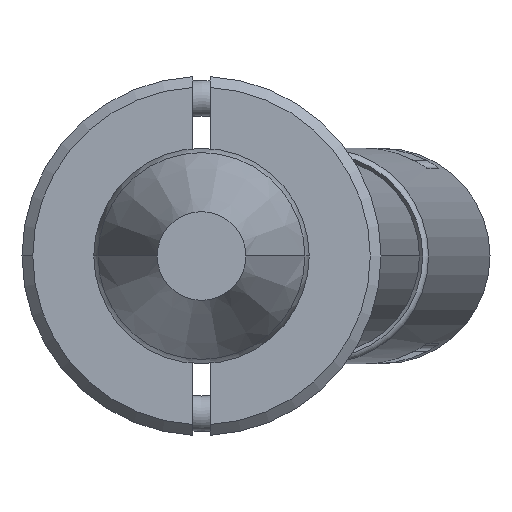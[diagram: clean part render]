
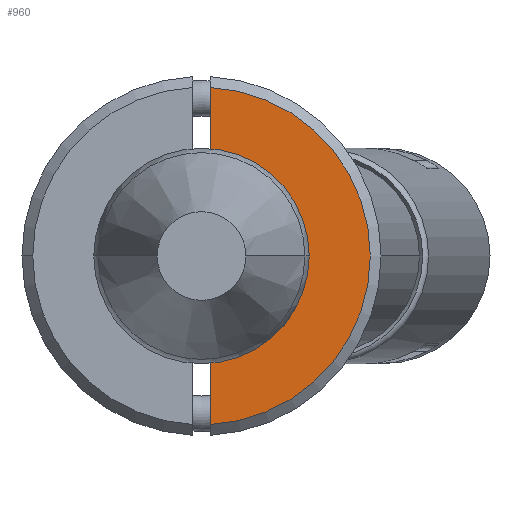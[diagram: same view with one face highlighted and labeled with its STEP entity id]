
A CAD part, front view. The second image highlights one B-rep face of the part: STEP entity #960.
In plain terms, the highlighted planar face has unit normal (0, -1, 0).
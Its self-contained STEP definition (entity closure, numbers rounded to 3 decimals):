
#6 = DIRECTION ( 'NONE',  ( 0., 0., -1. ) ) ;
#55 = ORIENTED_EDGE ( 'NONE', *, *, #1583, .F. ) ;
#190 = VERTEX_POINT ( 'NONE', #1288 ) ;
#221 = LINE ( 'NONE', #2605, #579 ) ;
#275 = DIRECTION ( 'NONE',  ( 0., 0., -1. ) ) ;
#398 = DIRECTION ( 'NONE',  ( 0., 1., 0. ) ) ;
#532 = DIRECTION ( 'NONE',  ( 1., 0., 0. ) ) ;
#579 = VECTOR ( 'NONE', #532, 1000. ) ;
#590 = CARTESIAN_POINT ( 'NONE',  ( 4.693, -6., -0.25 ) ) ;
#693 = CARTESIAN_POINT ( 'NONE',  ( 0., -6., 0. ) ) ;
#696 = ORIENTED_EDGE ( 'NONE', *, *, #1344, .T. ) ;
#715 = EDGE_CURVE ( 'NONE', #1030, #3325, #1841, .T. ) ;
#873 = FACE_OUTER_BOUND ( 'NONE', #1188, .T. ) ;
#960 = ADVANCED_FACE ( 'NONE', ( #873 ), #2345, .T. ) ;
#1030 = VERTEX_POINT ( 'NONE', #3600 ) ;
#1188 = EDGE_LOOP ( 'NONE', ( #2768, #2551, #55, #696, #1840 ) ) ;
#1278 = AXIS2_PLACEMENT_3D ( 'NONE', #3840, #3516, #6 ) ;
#1288 = CARTESIAN_POINT ( 'NONE',  ( 0., -6., -2.45 ) ) ;
#1306 = DIRECTION ( 'NONE',  ( 0., 0., -1. ) ) ;
#1344 = EDGE_CURVE ( 'NONE', #2230, #190, #3143, .T. ) ;
#1460 = CIRCLE ( 'NONE', #3564, 2.45 ) ;
#1506 = CARTESIAN_POINT ( 'NONE',  ( -2.437, -6., -0.25 ) ) ;
#1583 = EDGE_CURVE ( 'NONE', #2230, #3325, #2659, .T. ) ;
#1606 = EDGE_CURVE ( 'NONE', #1030, #2997, #221, .T. ) ;
#1697 = CARTESIAN_POINT ( 'NONE',  ( 0., -6., 0. ) ) ;
#1720 = VECTOR ( 'NONE', #2372, 1000. ) ;
#1840 = ORIENTED_EDGE ( 'NONE', *, *, #2422, .T. ) ;
#1841 = CIRCLE ( 'NONE', #2698, 4.7 ) ;
#2039 = CARTESIAN_POINT ( 'NONE',  ( -5., -6., -0.25 ) ) ;
#2230 = VERTEX_POINT ( 'NONE', #2529 ) ;
#2277 = AXIS2_PLACEMENT_3D ( 'NONE', #2867, #2512, #2491 ) ;
#2345 = PLANE ( 'NONE',  #1278 ) ;
#2367 = DIRECTION ( 'NONE',  ( 0., -1., 0. ) ) ;
#2372 = DIRECTION ( 'NONE',  ( 1., 0., 0. ) ) ;
#2422 = EDGE_CURVE ( 'NONE', #190, #2997, #1460, .T. ) ;
#2491 = DIRECTION ( 'NONE',  ( 0., 0., -1. ) ) ;
#2512 = DIRECTION ( 'NONE',  ( 0., 1., 0. ) ) ;
#2529 = CARTESIAN_POINT ( 'NONE',  ( 2.437, -6., -0.25 ) ) ;
#2551 = ORIENTED_EDGE ( 'NONE', *, *, #715, .T. ) ;
#2605 = CARTESIAN_POINT ( 'NONE',  ( -5., -6., -0.25 ) ) ;
#2659 = LINE ( 'NONE', #2039, #1720 ) ;
#2698 = AXIS2_PLACEMENT_3D ( 'NONE', #1697, #2367, #275 ) ;
#2768 = ORIENTED_EDGE ( 'NONE', *, *, #1606, .F. ) ;
#2867 = CARTESIAN_POINT ( 'NONE',  ( 0., -6., 0. ) ) ;
#2997 = VERTEX_POINT ( 'NONE', #1506 ) ;
#3143 = CIRCLE ( 'NONE', #2277, 2.45 ) ;
#3325 = VERTEX_POINT ( 'NONE', #590 ) ;
#3516 = DIRECTION ( 'NONE',  ( 0., -1., 0. ) ) ;
#3564 = AXIS2_PLACEMENT_3D ( 'NONE', #693, #398, #1306 ) ;
#3600 = CARTESIAN_POINT ( 'NONE',  ( -4.693, -6., -0.25 ) ) ;
#3840 = CARTESIAN_POINT ( 'NONE',  ( -5., -6., 0. ) ) ;
